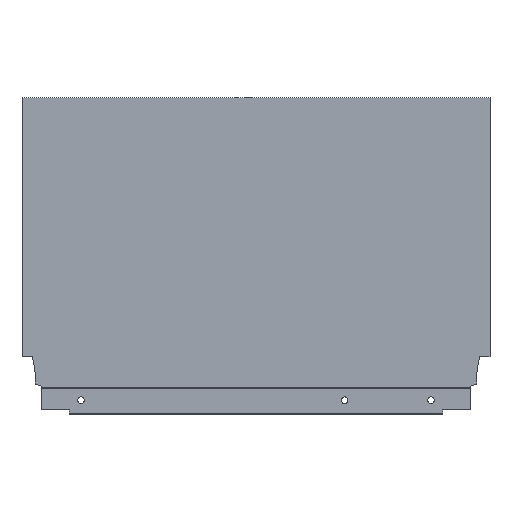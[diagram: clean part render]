
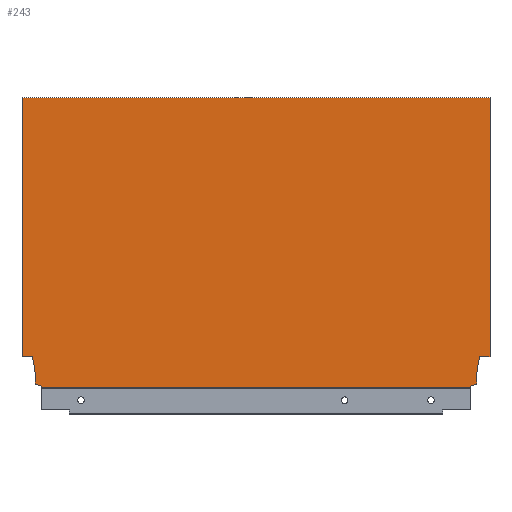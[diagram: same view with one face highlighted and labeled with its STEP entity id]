
A CAD part, top view. The second image highlights one B-rep face of the part: STEP entity #243.
In plain terms, the highlighted planar face has unit normal (0, 0, 1).
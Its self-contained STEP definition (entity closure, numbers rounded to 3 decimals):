
#126 = AXIS2_PLACEMENT_3D ( 'NONE', #729, #737, #739 ) ;
#140 = EDGE_CURVE ( 'NONE', #488, #491, #978, .T. ) ;
#167 = EDGE_CURVE ( 'NONE', #488, #524, #962, .T. ) ;
#168 = EDGE_CURVE ( 'NONE', #538, #524, #930, .T. ) ;
#169 = EDGE_CURVE ( 'NONE', #481, #517, #926, .T. ) ;
#173 = EDGE_CURVE ( 'NONE', #491, #529, #946, .T. ) ;
#177 = EDGE_CURVE ( 'NONE', #475, #473, #918, .T. ) ;
#178 = EDGE_CURVE ( 'NONE', #505, #475, #916, .T. ) ;
#182 = EDGE_CURVE ( 'NONE', #529, #481, #908, .T. ) ;
#184 = EDGE_CURVE ( 'NONE', #520, #495, #927, .T. ) ;
#185 = EDGE_CURVE ( 'NONE', #520, #498, #1267, .T. ) ;
#186 = EDGE_CURVE ( 'NONE', #498, #472, #1274, .T. ) ;
#188 = EDGE_CURVE ( 'NONE', #472, #505, #1339, .T. ) ;
#199 = EDGE_CURVE ( 'NONE', #473, #538, #1028, .T. ) ;
#208 = EDGE_CURVE ( 'NONE', #517, #495, #1032, .T. ) ;
#243 = ADVANCED_FACE ( 'NONE', ( #1388 ), #725, .T. ) ;
#250 = DIRECTION ( 'NONE',  ( -1., 0., 0. ) ) ;
#253 = CARTESIAN_POINT ( 'NONE',  ( -322., 21.2, 7.5 ) ) ;
#290 = DIRECTION ( 'NONE',  ( -0.94, -0.342, 0. ) ) ;
#293 = CARTESIAN_POINT ( 'NONE',  ( -8.9, 2.64, 7.5 ) ) ;
#305 = DIRECTION ( 'NONE',  ( -1., 0., 0. ) ) ;
#308 = CARTESIAN_POINT ( 'NONE',  ( 0., 21.2, 7.5 ) ) ;
#343 = CARTESIAN_POINT ( 'NONE',  ( 0., 0., 7.5 ) ) ;
#344 = DIRECTION ( 'NONE',  ( 0., -1., 0. ) ) ;
#368 = CARTESIAN_POINT ( 'NONE',  ( -308.1, 2.64, 7.5 ) ) ;
#370 = DIRECTION ( 'NONE',  ( 1., 0., 0. ) ) ;
#377 = CARTESIAN_POINT ( 'NONE',  ( -13.004, 1.146, 7.5 ) ) ;
#379 = DIRECTION ( 'NONE',  ( 0., -1., 0. ) ) ;
#380 = CARTESIAN_POINT ( 'NONE',  ( -8.9, 10.765, 7.5 ) ) ;
#387 = DIRECTION ( 'NONE',  ( -0.94, 0.342, 0. ) ) ;
#472 = VERTEX_POINT ( 'NONE', #861 ) ;
#473 = VERTEX_POINT ( 'NONE', #892 ) ;
#475 = VERTEX_POINT ( 'NONE', #877 ) ;
#481 = VERTEX_POINT ( 'NONE', #868 ) ;
#488 = VERTEX_POINT ( 'NONE', #835 ) ;
#491 = VERTEX_POINT ( 'NONE', #871 ) ;
#495 = VERTEX_POINT ( 'NONE', #706 ) ;
#498 = VERTEX_POINT ( 'NONE', #833 ) ;
#505 = VERTEX_POINT ( 'NONE', #824 ) ;
#517 = VERTEX_POINT ( 'NONE', #806 ) ;
#520 = VERTEX_POINT ( 'NONE', #808 ) ;
#524 = VERTEX_POINT ( 'NONE', #811 ) ;
#529 = VERTEX_POINT ( 'NONE', #794 ) ;
#538 = VERTEX_POINT ( 'NONE', #803 ) ;
#548 = DIRECTION ( 'NONE',  ( 0., 1., 0. ) ) ;
#549 = CARTESIAN_POINT ( 'NONE',  ( -308.1, 10.765, 7.5 ) ) ;
#551 = DIRECTION ( 'NONE',  ( 1., 0., 0. ) ) ;
#553 = CARTESIAN_POINT ( 'NONE',  ( -317., 0., 7.5 ) ) ;
#590 = CARTESIAN_POINT ( 'NONE',  ( -303.996, 1.146, 7.5 ) ) ;
#591 = DIRECTION ( 'NONE',  ( 0., 1., 0. ) ) ;
#624 = CARTESIAN_POINT ( 'NONE',  ( -317., 196.7, 7.5 ) ) ;
#650 = CARTESIAN_POINT ( 'NONE',  ( -309.94, 21.2, 7.5 ) ) ;
#651 = DIRECTION ( 'NONE',  ( -0.174, 0.985, 0. ) ) ;
#652 = DIRECTION ( 'NONE',  ( 0., -1., 0. ) ) ;
#653 = CARTESIAN_POINT ( 'NONE',  ( -7.06, 21.2, 7.5 ) ) ;
#654 = CARTESIAN_POINT ( 'NONE',  ( -317., 0., 7.5 ) ) ;
#656 = DIRECTION ( 'NONE',  ( -0.174, -0.985, 0. ) ) ;
#658 = DIRECTION ( 'NONE',  ( 0., -1., 0. ) ) ;
#706 = CARTESIAN_POINT ( 'NONE',  ( -317., 21.2, 7.5 ) ) ;
#725 = PLANE ( 'NONE',  #126 ) ;
#729 = CARTESIAN_POINT ( 'NONE',  ( -317., 0., 7.5 ) ) ;
#737 = DIRECTION ( 'NONE',  ( 0., 0., 1. ) ) ;
#739 = DIRECTION ( 'NONE',  ( 1., 0., 0. ) ) ;
#794 = CARTESIAN_POINT ( 'NONE',  ( -308.1, 2.64, 7.5 ) ) ;
#803 = CARTESIAN_POINT ( 'NONE',  ( -13.004, 1.146, 7.5 ) ) ;
#806 = CARTESIAN_POINT ( 'NONE',  ( -309.94, 21.2, 7.5 ) ) ;
#808 = CARTESIAN_POINT ( 'NONE',  ( -317., 196.7, 7.5 ) ) ;
#811 = CARTESIAN_POINT ( 'NONE',  ( -13.004, 0., 7.5 ) ) ;
#824 = CARTESIAN_POINT ( 'NONE',  ( -7.06, 21.2, 7.5 ) ) ;
#833 = CARTESIAN_POINT ( 'NONE',  ( 0., 196.7, 7.5 ) ) ;
#835 = CARTESIAN_POINT ( 'NONE',  ( -303.996, 0., 7.5 ) ) ;
#861 = CARTESIAN_POINT ( 'NONE',  ( 0., 21.2, 7.5 ) ) ;
#868 = CARTESIAN_POINT ( 'NONE',  ( -308.1, 10.765, 7.5 ) ) ;
#871 = CARTESIAN_POINT ( 'NONE',  ( -303.996, 1.146, 7.5 ) ) ;
#877 = CARTESIAN_POINT ( 'NONE',  ( -8.9, 10.765, 7.5 ) ) ;
#892 = CARTESIAN_POINT ( 'NONE',  ( -8.9, 2.64, 7.5 ) ) ;
#908 = LINE ( 'NONE', #549, #1368 ) ;
#915 = VECTOR ( 'NONE', #656, 1000. ) ;
#916 = LINE ( 'NONE', #653, #915 ) ;
#917 = VECTOR ( 'NONE', #652, 1000. ) ;
#918 = LINE ( 'NONE', #380, #917 ) ;
#922 = VECTOR ( 'NONE', #387, 1000. ) ;
#925 = VECTOR ( 'NONE', #651, 1000. ) ;
#926 = LINE ( 'NONE', #650, #925 ) ;
#927 = LINE ( 'NONE', #654, #1275 ) ;
#928 = VECTOR ( 'NONE', #379, 1000. ) ;
#930 = LINE ( 'NONE', #377, #928 ) ;
#945 = VECTOR ( 'NONE', #370, 1000. ) ;
#946 = LINE ( 'NONE', #368, #922 ) ;
#962 = LINE ( 'NONE', #553, #945 ) ;
#976 = VECTOR ( 'NONE', #591, 1000. ) ;
#978 = LINE ( 'NONE', #590, #976 ) ;
#1027 = VECTOR ( 'NONE', #290, 1000. ) ;
#1028 = LINE ( 'NONE', #293, #1027 ) ;
#1032 = LINE ( 'NONE', #253, #1037 ) ;
#1037 = VECTOR ( 'NONE', #250, 1000. ) ;
#1163 = ORIENTED_EDGE ( 'NONE', *, *, #185, .F. ) ;
#1164 = ORIENTED_EDGE ( 'NONE', *, *, #186, .F. ) ;
#1165 = ORIENTED_EDGE ( 'NONE', *, *, #188, .F. ) ;
#1166 = ORIENTED_EDGE ( 'NONE', *, *, #178, .F. ) ;
#1167 = ORIENTED_EDGE ( 'NONE', *, *, #177, .F. ) ;
#1168 = ORIENTED_EDGE ( 'NONE', *, *, #168, .F. ) ;
#1169 = ORIENTED_EDGE ( 'NONE', *, *, #167, .T. ) ;
#1170 = ORIENTED_EDGE ( 'NONE', *, *, #140, .F. ) ;
#1171 = ORIENTED_EDGE ( 'NONE', *, *, #173, .F. ) ;
#1172 = ORIENTED_EDGE ( 'NONE', *, *, #182, .F. ) ;
#1174 = ORIENTED_EDGE ( 'NONE', *, *, #199, .F. ) ;
#1175 = ORIENTED_EDGE ( 'NONE', *, *, #169, .F. ) ;
#1176 = ORIENTED_EDGE ( 'NONE', *, *, #208, .F. ) ;
#1177 = ORIENTED_EDGE ( 'NONE', *, *, #184, .T. ) ;
#1250 = VECTOR ( 'NONE', #305, 1000. ) ;
#1263 = VECTOR ( 'NONE', #551, 1000. ) ;
#1266 = VECTOR ( 'NONE', #344, 1000. ) ;
#1267 = LINE ( 'NONE', #624, #1263 ) ;
#1274 = LINE ( 'NONE', #343, #1266 ) ;
#1275 = VECTOR ( 'NONE', #658, 1000. ) ;
#1339 = LINE ( 'NONE', #308, #1250 ) ;
#1368 = VECTOR ( 'NONE', #548, 1000. ) ;
#1388 = FACE_OUTER_BOUND ( 'NONE', #1532, .T. ) ;
#1532 = EDGE_LOOP ( 'NONE', ( #1177, #1176, #1175, #1172, #1171, #1170, #1169, #1168, #1174, #1167, #1166, #1165, #1164, #1163 ) ) ;
